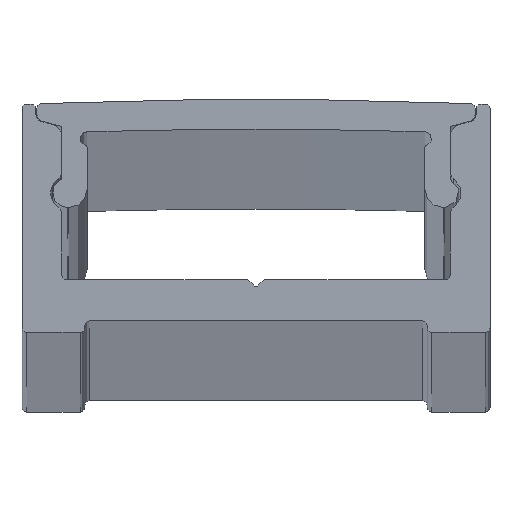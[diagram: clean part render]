
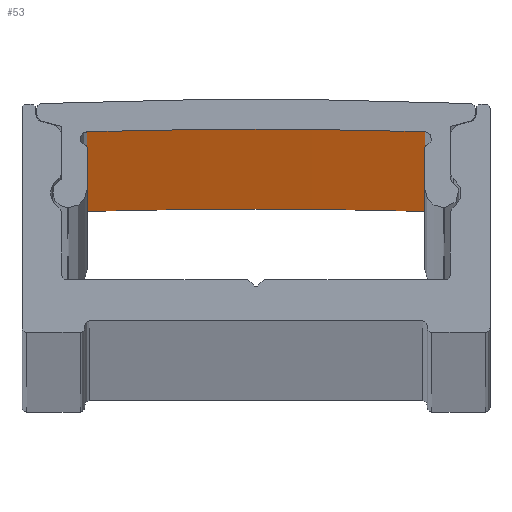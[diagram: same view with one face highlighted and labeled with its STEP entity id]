
A CAD part, top view. The second image highlights one B-rep face of the part: STEP entity #53.
In plain terms, the highlighted cylindrical face has radius 248.7 mm (diameter 497.4 mm), a partial arc.
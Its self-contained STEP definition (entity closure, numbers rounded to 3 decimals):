
#53 = ADVANCED_FACE ( 'NONE', ( #650 ), #466, .F. ) ;
#67 = AXIS2_PLACEMENT_3D ( 'NONE', #811, #2813, #822 ) ;
#127 = ORIENTED_EDGE ( 'NONE', *, *, #2273, .T. ) ;
#139 = ORIENTED_EDGE ( 'NONE', *, *, #2200, .F. ) ;
#198 = EDGE_CURVE ( 'NONE', #2199, #1554, #1801, .T. ) ;
#387 = LINE ( 'NONE', #648, #1015 ) ;
#466 = CYLINDRICAL_SURFACE ( 'NONE', #2169, 248.7 ) ;
#484 = CARTESIAN_POINT ( 'NONE',  ( 0., -250., -1000. ) ) ;
#621 = DIRECTION ( 'NONE',  ( 0., 0., -1. ) ) ;
#648 = CARTESIAN_POINT ( 'NONE',  ( -7.409, -1.41, 1000. ) ) ;
#650 = FACE_OUTER_BOUND ( 'NONE', #863, .T. ) ;
#794 = VERTEX_POINT ( 'NONE', #1571 ) ;
#799 = AXIS2_PLACEMENT_3D ( 'NONE', #484, #2692, #1818 ) ;
#811 = CARTESIAN_POINT ( 'NONE',  ( 0., -250., 1000. ) ) ;
#822 = DIRECTION ( 'NONE',  ( 1., 0., 0. ) ) ;
#847 = CARTESIAN_POINT ( 'NONE',  ( 7.409, -1.41, 1000. ) ) ;
#863 = EDGE_LOOP ( 'NONE', ( #1688, #139, #908, #127 ) ) ;
#908 = ORIENTED_EDGE ( 'NONE', *, *, #198, .F. ) ;
#1005 = VERTEX_POINT ( 'NONE', #1709 ) ;
#1015 = VECTOR ( 'NONE', #621, 1000. ) ;
#1347 = DIRECTION ( 'NONE',  ( -1., 0., 0. ) ) ;
#1554 = VERTEX_POINT ( 'NONE', #2074 ) ;
#1571 = CARTESIAN_POINT ( 'NONE',  ( -7.409, -1.41, -1000. ) ) ;
#1633 = CIRCLE ( 'NONE', #799, 248.7 ) ;
#1688 = ORIENTED_EDGE ( 'NONE', *, *, #1951, .T. ) ;
#1709 = CARTESIAN_POINT ( 'NONE',  ( 7.409, -1.41, -1000. ) ) ;
#1728 = LINE ( 'NONE', #847, #1798 ) ;
#1786 = CARTESIAN_POINT ( 'NONE',  ( 0., -250., 1000. ) ) ;
#1798 = VECTOR ( 'NONE', #2427, 1000. ) ;
#1801 = CIRCLE ( 'NONE', #67, 248.7 ) ;
#1818 = DIRECTION ( 'NONE',  ( 1., 0., 0. ) ) ;
#1951 = EDGE_CURVE ( 'NONE', #794, #1005, #1633, .T. ) ;
#2074 = CARTESIAN_POINT ( 'NONE',  ( 7.409, -1.41, 1000. ) ) ;
#2169 = AXIS2_PLACEMENT_3D ( 'NONE', #1786, #2468, #1347 ) ;
#2199 = VERTEX_POINT ( 'NONE', #2596 ) ;
#2200 = EDGE_CURVE ( 'NONE', #1554, #1005, #1728, .T. ) ;
#2273 = EDGE_CURVE ( 'NONE', #2199, #794, #387, .T. ) ;
#2427 = DIRECTION ( 'NONE',  ( 0., 0., -1. ) ) ;
#2468 = DIRECTION ( 'NONE',  ( 0., 0., -1. ) ) ;
#2596 = CARTESIAN_POINT ( 'NONE',  ( -7.409, -1.41, 1000. ) ) ;
#2692 = DIRECTION ( 'NONE',  ( 0., 0., -1. ) ) ;
#2813 = DIRECTION ( 'NONE',  ( 0., 0., -1. ) ) ;
